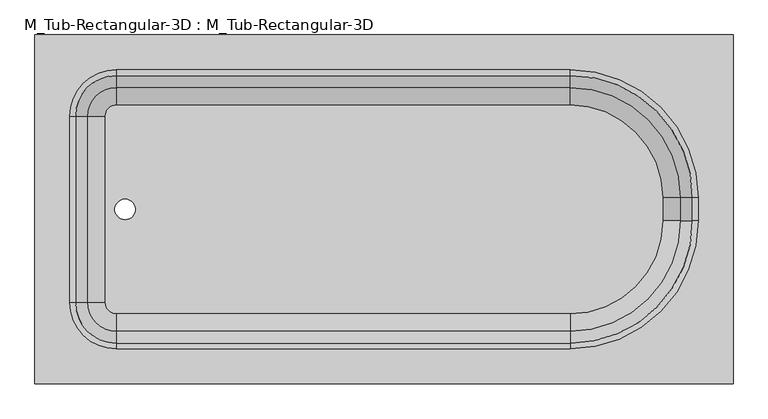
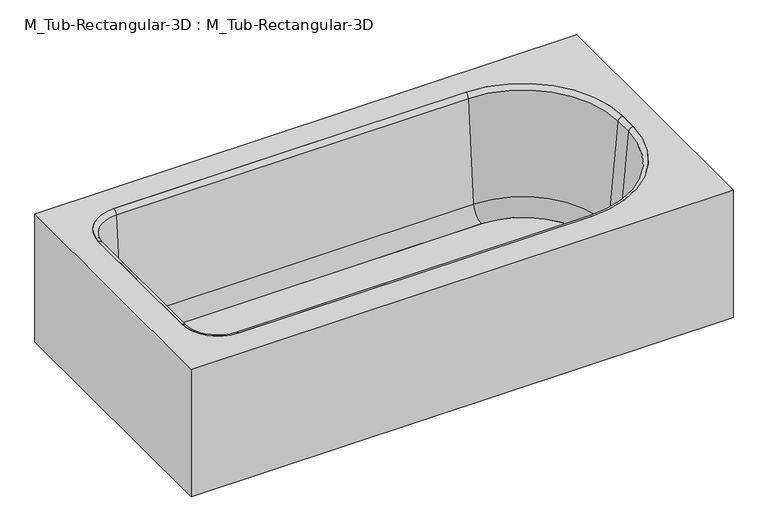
"""IFC4 building model written with IfcOpenShell, lengths in millimetres: flow terminal geometry, M_Tub-Rectangular-3D : M_Tub-Rectangular-3D."""

from ifc_helpers import new_model, si_unit, point, frame, frame_2d, origin, place, context, project, spatial, polyline, circle_curve, ellipse_curve, trimmed, segment, composite_curve, outline, extrude, source, transform, mapped, element, save
from ifc_brep_helpers import plane_surface, cylinder_surface, revolved_surface, advanced_brep


def m_tub_rectangular_3d_m_tub_rectangular_3d_5c80b43e(model_context):
    return source(origin(), model_context, "Body", "SolidModel", [
        advanced_brep(
        [(-995.7544608, 676.2, 69.6929392), (-932.8029687, 739.1514921, 69.6929392), (-932.8029687, 765.3220035, 368.8232535), (-1021.9249722, 676.2, 368.8232535), (-957.7994428, 676.2, 34.913573), (-932.8029687, 701.1964741, 34.913573), (-957.7994428, 676.2, 15.863573), (-932.8029687, 701.1964741, 15.863573), (-1034.4029687, 676.2, 15.863573), (-932.8029687, 777.8, 15.863573), (-1034.4029687, 676.2, 380.0), (-932.8029687, 777.8, 380.0), (-1021.9249722, 269.8, 368.8232535), (-995.7544608, 269.8, 69.6929392), (-957.7994428, 269.8, 34.913573), (-957.7994428, 269.8, 15.863573), (-1034.4029687, 269.8, 15.863573), (-1034.4029687, 269.8, 380.0), (-932.8029687, 206.8485079, 69.6929392), (-932.8029687, 180.6779965, 368.8232535), (-932.8029687, 244.8035259, 34.913573), (-932.8029687, 244.8035259, 15.863573), (-932.8029687, 168.2, 15.863573), (-932.8029687, 168.2, 380.0), (58.7970313, 180.6779965, 368.8232535), (58.7970313, 206.8485079, 69.6929392), (58.7970313, 244.8035259, 34.913573), (58.7970313, 244.8035259, 15.863573), (58.7970313, 168.2, 15.863573), (58.7970313, 168.2, 380.0), (299.5485234, 447.6, 69.6929392), (325.7190348, 447.6, 368.8232535), (261.5935054, 447.6, 34.913573), (261.5935054, 447.6, 15.863573), (338.1970313, 447.6, 15.863573), (338.1970313, 447.6, 380.0), (325.7190348, 498.4, 368.8232535), (299.5485234, 498.4, 69.6929392), (261.5935054, 498.4, 34.913573), (261.5935054, 498.4, 15.863573), (338.1970313, 498.4, 15.863573), (338.1970313, 498.4, 380.0), (58.7970313, 739.1514921, 69.6929392), (58.7970313, 765.3220035, 368.8232535), (58.7970313, 701.1964741, 34.913573), (58.7970313, 701.1964741, 15.863573), (58.7970313, 777.8, 15.863573), (58.7970313, 777.8, 380.0)],
        [
            (0, 1, circle_curve(frame((-932.8029687, 676.2, 69.6929392), z_axis=(0.0, 0.0, -1.0), x_axis=(0.0, 1.0, 0.0)), 62.9514921)),
            (1, 2),
            (2, 3, circle_curve(frame((-932.8029687, 676.2, 368.8232535), z_axis=(0.0, 0.0, 1.0), x_axis=(0.0, 1.0, 0.0)), 89.1220035)),
            (3, 0),
            (4, 5, circle_curve(frame((-932.8029687, 676.2, 34.913573), z_axis=(0.0, 0.0, -1.0), x_axis=(0.0, 1.0, 0.0)), 24.9964741)),
            (5, 1, circle_curve(frame((-932.8029687, 701.1964741, 73.013573), z_axis=(1.0, 0.0, 0.0), x_axis=(0.0, -1.0, 0.0)), 38.1)),
            (0, 4, circle_curve(frame((-957.7994428, 676.2, 73.013573), z_axis=(0.0, -1.0, 0.0), x_axis=(1.0, 0.0, 0.0)), 38.1)),
            (6, 7, circle_curve(frame((-932.8029687, 676.2, 15.863573), z_axis=(0.0, 0.0, -1.0), x_axis=(0.0, 1.0, 0.0)), 24.9964741)),
            (7, 5),
            (4, 6),
            (8, 9, circle_curve(frame((-932.8029687, 676.2, 15.863573), z_axis=(0.0, 0.0, -1.0), x_axis=(0.0, 1.0, 0.0)), 101.6)),
            (9, 7),
            (6, 8),
            (10, 11, circle_curve(frame((-932.8029687, 676.2, 380.0), z_axis=(0.0, 0.0, -1.0), x_axis=(0.0, 1.0, 0.0)), 101.6)),
            (11, 9),
            (8, 10),
            (2, 11, circle_curve(frame((-932.8029687, 777.8, 367.4462547), z_axis=(-1.0, 0.0, 0.0), x_axis=(0.0, -1.0, 0.0)), 12.5537453)),
            (10, 3, circle_curve(frame((-1034.4029687, 676.2, 367.4462547), z_axis=(0.0, 1.0, 0.0), x_axis=(1.0, 0.0, 0.0)), 12.5537453)),
            (3, 12),
            (12, 13),
            (13, 0),
            (13, 14, circle_curve(frame((-957.7994428, 269.8, 73.013573), z_axis=(0.0, -1.0, 0.0), x_axis=(1.0, 0.0, 0.0)), 38.1)),
            (14, 4),
            (14, 15),
            (15, 6),
            (15, 16),
            (16, 8),
            (16, 17),
            (17, 10),
            (17, 12, circle_curve(frame((-1034.4029687, 269.8, 367.4462547), z_axis=(0.0, 1.0, 0.0), x_axis=(1.0, 0.0, 0.0)), 12.5537453)),
            (18, 13, circle_curve(frame((-932.8029687, 269.8, 69.6929392), z_axis=(0.0, 0.0, -1.0), x_axis=(-1.0, 0.0, 0.0)), 62.9514921)),
            (12, 19, circle_curve(frame((-932.8029687, 269.8, 368.8232535), z_axis=(0.0, 0.0, 1.0), x_axis=(-1.0, 0.0, 0.0)), 89.1220035)),
            (19, 18),
            (20, 14, circle_curve(frame((-932.8029687, 269.8, 34.913573), z_axis=(0.0, 0.0, -1.0), x_axis=(-1.0, 0.0, 0.0)), 24.9964741)),
            (18, 20, circle_curve(frame((-932.8029687, 244.8035259, 73.013573), z_axis=(1.0, 0.0, 0.0), x_axis=(0.0, 1.0, 0.0)), 38.1)),
            (21, 15, circle_curve(frame((-932.8029687, 269.8, 15.863573), z_axis=(0.0, 0.0, -1.0), x_axis=(-1.0, 0.0, 0.0)), 24.9964741)),
            (20, 21),
            (22, 16, circle_curve(frame((-932.8029687, 269.8, 15.863573), z_axis=(0.0, 0.0, -1.0), x_axis=(-1.0, 0.0, 0.0)), 101.6)),
            (21, 22),
            (23, 17, circle_curve(frame((-932.8029687, 269.8, 380.0), z_axis=(0.0, 0.0, -1.0), x_axis=(-1.0, 0.0, 0.0)), 101.6)),
            (22, 23),
            (23, 19, circle_curve(frame((-932.8029687, 168.2, 367.4462547), z_axis=(-1.0, 0.0, 0.0), x_axis=(0.0, 1.0, 0.0)), 12.5537453)),
            (19, 24),
            (24, 25),
            (25, 18),
            (25, 26, circle_curve(frame((58.7970313, 244.8035259, 73.013573), z_axis=(1.0, 0.0, 0.0), x_axis=(0.0, 1.0, 0.0)), 38.1)),
            (26, 20),
            (26, 27),
            (27, 21),
            (27, 28),
            (28, 22),
            (28, 29),
            (29, 23),
            (29, 24, circle_curve(frame((58.7970313, 168.2, 367.4462547), z_axis=(-1.0, 0.0, 0.0), x_axis=(0.0, 1.0, 0.0)), 12.5537453)),
            (30, 25, circle_curve(frame((58.7970313, 447.6, 69.6929392), z_axis=(0.0, 0.0, -1.0), x_axis=(0.0, -1.0, 0.0)), 240.7514921)),
            (24, 31, circle_curve(frame((58.7970313, 447.6, 368.8232535), z_axis=(0.0, 0.0, 1.0), x_axis=(0.0, -1.0, 0.0)), 266.9220035)),
            (31, 30),
            (32, 26, circle_curve(frame((58.7970313, 447.6, 34.913573), z_axis=(0.0, 0.0, -1.0), x_axis=(0.0, -1.0, 0.0)), 202.7964741)),
            (30, 32, circle_curve(frame((261.5935054, 447.6, 73.013573), z_axis=(0.0, 1.0, 0.0), x_axis=(-1.0, 0.0, 0.0)), 38.1)),
            (33, 27, circle_curve(frame((58.7970313, 447.6, 15.863573), z_axis=(0.0, 0.0, -1.0), x_axis=(0.0, -1.0, 0.0)), 202.7964741)),
            (32, 33),
            (34, 28, circle_curve(frame((58.7970313, 447.6, 15.863573), z_axis=(0.0, 0.0, -1.0), x_axis=(0.0, -1.0, 0.0)), 279.4)),
            (33, 34),
            (35, 29, circle_curve(frame((58.7970313, 447.6, 380.0), z_axis=(0.0, 0.0, -1.0), x_axis=(0.0, -1.0, 0.0)), 279.4)),
            (34, 35),
            (35, 31, circle_curve(frame((338.1970313, 447.6, 367.4462547), z_axis=(0.0, -1.0, 0.0), x_axis=(-1.0, 0.0, 0.0)), 12.5537453)),
            (31, 36),
            (36, 37),
            (37, 30),
            (37, 38, circle_curve(frame((261.5935054, 498.4, 73.013573), z_axis=(0.0, 1.0, 0.0), x_axis=(-1.0, 0.0, 0.0)), 38.1)),
            (38, 32),
            (38, 39),
            (39, 33),
            (39, 40),
            (40, 34),
            (40, 41),
            (41, 35),
            (41, 36, circle_curve(frame((338.1970313, 498.4, 367.4462547), z_axis=(0.0, -1.0, 0.0), x_axis=(-1.0, 0.0, 0.0)), 12.5537453)),
            (42, 37, circle_curve(frame((58.7970313, 498.4, 69.6929392), z_axis=(0.0, 0.0, -1.0), x_axis=(1.0, 0.0, 0.0)), 240.7514921)),
            (36, 43, circle_curve(frame((58.7970313, 498.4, 368.8232535), z_axis=(0.0, 0.0, 1.0), x_axis=(1.0, 0.0, 0.0)), 266.9220035)),
            (43, 42),
            (44, 38, circle_curve(frame((58.7970313, 498.4, 34.913573), z_axis=(0.0, 0.0, -1.0), x_axis=(1.0, 0.0, 0.0)), 202.7964741)),
            (42, 44, circle_curve(frame((58.7970313, 701.1964741, 73.013573), z_axis=(-1.0, 0.0, 0.0), x_axis=(0.0, -1.0, 0.0)), 38.1)),
            (45, 39, circle_curve(frame((58.7970313, 498.4, 15.863573), z_axis=(0.0, 0.0, -1.0), x_axis=(1.0, 0.0, 0.0)), 202.7964741)),
            (44, 45),
            (46, 40, circle_curve(frame((58.7970313, 498.4, 15.863573), z_axis=(0.0, 0.0, -1.0), x_axis=(1.0, 0.0, 0.0)), 279.4)),
            (45, 46),
            (47, 41, circle_curve(frame((58.7970313, 498.4, 380.0), z_axis=(0.0, 0.0, -1.0), x_axis=(1.0, 0.0, 0.0)), 279.4)),
            (46, 47),
            (47, 43, circle_curve(frame((58.7970313, 777.8, 367.4462547), z_axis=(1.0, 0.0, 0.0), x_axis=(0.0, -1.0, 0.0)), 12.5537453)),
            (43, 2),
            (1, 42),
            (5, 44),
            (7, 45),
            (9, 46),
            (11, 47),
        ],
        [
            revolved_surface(polyline([(-932.8029687, 765.3220035, 368.8232535), (-932.8029687, 739.1514921, 69.6929392)]), (-932.8029687, 676.2, 380.0), (0.0, 0.0, 1.0)),
            revolved_surface(trimmed(ellipse_curve(frame((-932.8029687, 701.1964741, 73.013573), z_axis=(-1.0, 0.0, 0.0), x_axis=(0.0, -1.0, 0.0)), 38.1, 38.1), [point((-932.8029687, 739.1514921, 69.6929392))], [point((-932.8029687, 701.1964741, 34.913573))], True, "CARTESIAN"), (-932.8029687, 676.2, 380.0), (0.0, 0.0, 1.0)),
            revolved_surface(polyline([(-932.8029687, 701.1964741, 34.913572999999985), (-932.8029687, 701.1964741, 15.863572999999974)]), (-932.8029687, 676.2, 380.0), (0.0, 0.0, 1.0)),
            plane_surface(frame((-932.8029687, 676.2, 15.863573), z_axis=(0.0, 0.0, -1.0), x_axis=(0.0, 1.0, 0.0))),
            cylinder_surface(frame((-932.8029687, 676.2, 380.0), z_axis=(0.0, 0.0, 1.0), x_axis=(0.0, 1.0, 0.0)), 101.6),
            revolved_surface(trimmed(ellipse_curve(frame((-932.8029687, 777.8, 367.4462547), z_axis=(1.0, 0.0, 0.0), x_axis=(0.0, -1.0, 0.0)), 12.5537453, 12.5537453), [point((-932.8029687, 777.8, 380.0))], [point((-932.8029687, 765.3220035, 368.8232535))], True, "CARTESIAN"), (-932.8029687, 676.2, 380.0), (0.0, 0.0, 1.0)),
            plane_surface(frame((-1021.9249722, 676.2, 368.8232535), z_axis=(0.9961946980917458, 0.0, 0.08715574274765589), x_axis=(0.0, -1.0, 0.0))),
            revolved_surface(polyline([(-919.6994427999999, 269.8, 73.013573), (-919.6994427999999, 676.2, 73.013573)]), (-957.7994428, 676.2, 73.013573), (0.0, -1.0, 0.0)),
            plane_surface(frame((-957.7994428, 676.2, 34.913573), z_axis=(1.0, 0.0, 0.0), x_axis=(0.0, -1.0, 0.0))),
            plane_surface(frame((-957.7994428, 676.2, 15.863573), z_axis=(0.0, 0.0, -1.0), x_axis=(0.0, -1.0, 0.0))),
            plane_surface(frame((-1034.4029687, 676.2, 15.863573), z_axis=(-1.0, 0.0, 0.0), x_axis=(0.0, -1.0, 0.0))),
            cylinder_surface(frame((-1034.4029687, 676.2, 367.4462547), z_axis=(0.0, 1.0, 0.0), x_axis=(1.0, 0.0, 0.0)), 12.5537453),
            revolved_surface(polyline([(-1021.9249722, 269.8, 368.8232535), (-995.7544608, 269.8, 69.6929392)]), (-932.8029687, 269.8, 380.0), (0.0, 0.0, 1.0)),
            revolved_surface(trimmed(ellipse_curve(frame((-957.7994428, 269.8, 73.013573), z_axis=(0.0, -1.0, 0.0), x_axis=(1.0, 0.0, 0.0)), 38.1, 38.1), [point((-995.7544608, 269.8, 69.6929392))], [point((-957.7994428, 269.8, 34.913573))], True, "CARTESIAN"), (-932.8029687, 269.8, 380.0), (0.0, 0.0, 1.0)),
            revolved_surface(polyline([(-957.7994428, 269.8, 34.913572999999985), (-957.7994428, 269.8, 15.863572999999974)]), (-932.8029687, 269.8, 380.0), (0.0, 0.0, 1.0)),
            plane_surface(frame((-932.8029687, 269.8, 15.863573), z_axis=(0.0, 0.0, -1.0), x_axis=(-1.0, 0.0, 0.0))),
            cylinder_surface(frame((-932.8029687, 269.8, 380.0), z_axis=(0.0, 0.0, 1.0), x_axis=(-1.0, 0.0, 0.0)), 101.6),
            revolved_surface(trimmed(ellipse_curve(frame((-1034.4029687, 269.8, 367.4462547), z_axis=(0.0, 1.0, 0.0), x_axis=(1.0, 0.0, 0.0)), 12.5537453, 12.5537453), [point((-1034.4029687, 269.8, 380.0))], [point((-1021.9249722, 269.8, 368.8232535))], True, "CARTESIAN"), (-932.8029687, 269.8, 380.0), (0.0, 0.0, 1.0)),
            plane_surface(frame((-932.8029687, 180.6779965, 368.8232535), z_axis=(0.0, 0.9961946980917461, 0.08715574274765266), x_axis=(1.0, 0.0, 0.0))),
            revolved_surface(polyline([(58.79703129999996, 282.90352590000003, 73.013573), (-932.8029687, 282.90352590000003, 73.013573)]), (-932.8029687, 244.8035259, 73.013573), (1.0, 0.0, 0.0)),
            plane_surface(frame((-932.8029687, 244.8035259, 34.913573), z_axis=(0.0, 1.0, 0.0), x_axis=(1.0, 0.0, 0.0))),
            plane_surface(frame((-932.8029687, 244.8035259, 15.863573), z_axis=(0.0, 0.0, -1.0), x_axis=(1.0, 0.0, 0.0))),
            plane_surface(frame((-932.8029687, 168.2, 15.863573), z_axis=(0.0, -1.0, 0.0), x_axis=(1.0, 0.0, 0.0))),
            cylinder_surface(frame((-932.8029687, 168.2, 367.4462547), z_axis=(-1.0, 0.0, 0.0), x_axis=(0.0, 1.0, 0.0)), 12.5537453),
            revolved_surface(polyline([(58.7970313, 180.6779965, 368.8232535), (58.7970313, 206.8485079, 69.6929392)]), (58.7970313, 447.6, 380.0), (0.0, 0.0, 1.0)),
            revolved_surface(trimmed(ellipse_curve(frame((58.7970313, 244.8035259, 73.013573), z_axis=(1.0, 0.0, 0.0), x_axis=(0.0, 1.0, 0.0)), 38.1, 38.1), [point((58.7970313, 206.8485079, 69.6929392))], [point((58.7970313, 244.8035259, 34.913573))], True, "CARTESIAN"), (58.7970313, 447.6, 380.0), (0.0, 0.0, 1.0)),
            revolved_surface(polyline([(58.7970313, 244.8035259, 34.913572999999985), (58.7970313, 244.8035259, 15.863572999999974)]), (58.7970313, 447.6, 380.0), (0.0, 0.0, 1.0)),
            plane_surface(frame((58.7970313, 447.6, 15.863573), z_axis=(0.0, 0.0, -1.0), x_axis=(0.0, -1.0, 0.0))),
            cylinder_surface(frame((58.7970313, 447.6, 380.0), z_axis=(0.0, 0.0, 1.0), x_axis=(0.0, -1.0, 0.0)), 279.4),
            revolved_surface(trimmed(ellipse_curve(frame((58.7970313, 168.2, 367.4462547), z_axis=(-1.0, 0.0, 0.0), x_axis=(0.0, 1.0, 0.0)), 12.5537453, 12.5537453), [point((58.7970313, 168.2, 380.0))], [point((58.7970313, 180.6779965, 368.8232535))], True, "CARTESIAN"), (58.7970313, 447.6, 380.0), (0.0, 0.0, 1.0)),
            plane_surface(frame((325.7190348, 447.6, 368.8232535), z_axis=(-0.9961946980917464, 0.0, 0.08715574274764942), x_axis=(0.0, 1.0, 0.0))),
            revolved_surface(polyline([(223.49350540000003, 498.4, 73.013573), (223.49350540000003, 447.6, 73.013573)]), (261.5935054, 447.6, 73.013573), (0.0, 1.0, 0.0)),
            plane_surface(frame((261.5935054, 447.6, 34.913573), z_axis=(-1.0, 0.0, 0.0), x_axis=(0.0, 1.0, 0.0))),
            plane_surface(frame((261.5935054, 447.6, 15.863573), z_axis=(0.0, 0.0, -1.0), x_axis=(0.0, 1.0, 0.0))),
            plane_surface(frame((338.1970313, 447.6, 15.863573), z_axis=(1.0, 0.0, 0.0), x_axis=(0.0, 1.0, 0.0))),
            cylinder_surface(frame((338.1970313, 447.6, 367.4462547), z_axis=(0.0, -1.0, 0.0), x_axis=(-1.0, 0.0, 0.0)), 12.5537453),
            revolved_surface(polyline([(325.7190348, 498.4, 368.8232535), (299.5485234, 498.4, 69.6929392)]), (58.7970313, 498.4, 380.0), (0.0, 0.0, 1.0)),
            revolved_surface(trimmed(ellipse_curve(frame((261.5935054, 498.4, 73.013573), z_axis=(0.0, 1.0, 0.0), x_axis=(-1.0, 0.0, 0.0)), 38.1, 38.1), [point((299.5485234, 498.4, 69.6929392))], [point((261.5935054, 498.4, 34.913573))], True, "CARTESIAN"), (58.7970313, 498.4, 380.0), (0.0, 0.0, 1.0)),
            revolved_surface(polyline([(261.5935054, 498.4, 34.913572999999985), (261.5935054, 498.4, 15.863572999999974)]), (58.7970313, 498.4, 380.0), (0.0, 0.0, 1.0)),
            plane_surface(frame((58.7970313, 498.4, 15.863573), z_axis=(0.0, 0.0, -1.0), x_axis=(1.0, 0.0, 0.0))),
            cylinder_surface(frame((58.7970313, 498.4, 380.0), z_axis=(0.0, 0.0, 1.0), x_axis=(1.0, 0.0, 0.0)), 279.4),
            revolved_surface(trimmed(ellipse_curve(frame((338.1970313, 498.4, 367.4462547), z_axis=(0.0, -1.0, 0.0), x_axis=(-1.0, 0.0, 0.0)), 12.5537453, 12.5537453), [point((338.1970313, 498.4, 380.0))], [point((325.7190348, 498.4, 368.8232535))], True, "CARTESIAN"), (58.7970313, 498.4, 380.0), (0.0, 0.0, 1.0)),
            plane_surface(frame((58.7970313, 765.3220035, 368.8232535), z_axis=(0.0, -0.9961946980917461, 0.08715574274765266), x_axis=(-1.0, 0.0, 0.0))),
            revolved_surface(polyline([(-932.8029687, 663.0964741, 73.013573), (58.7970313, 663.0964741, 73.013573)]), (58.7970313, 701.1964741, 73.013573), (-1.0, 0.0, 0.0)),
            plane_surface(frame((58.7970313, 701.1964741, 34.913573), z_axis=(0.0, -1.0, 0.0), x_axis=(-1.0, 0.0, 0.0))),
            plane_surface(frame((58.7970313, 701.1964741, 15.863573), z_axis=(0.0, 0.0, -1.0), x_axis=(-1.0, 0.0, 0.0))),
            plane_surface(frame((58.7970313, 777.8, 15.863573), z_axis=(0.0, 1.0, 0.0), x_axis=(-1.0, 0.0, 0.0))),
            cylinder_surface(frame((58.7970313, 777.8, 367.4462547), z_axis=(1.0, 0.0, 0.0), x_axis=(0.0, -1.0, 0.0)), 12.5537453),
        ],
        [
            (0, [[1, 2, 3, 4]]),
            (1, [[5, 6, -1, 7]]),
            (2, [[8, 9, -5, 10]]),
            (3, [[11, 12, -8, 13]]),
            (4, [[14, 15, -11, 16]]),
            (5, [[-3, 17, -14, 18]]),
            (6, [[-4, 19, 20, 21]]),
            (7, [[-7, -21, 22, 23]]),
            (8, [[-10, -23, 24, 25]]),
            (9, [[-13, -25, 26, 27]]),
            (10, [[-16, -27, 28, 29]]),
            (11, [[-18, -29, 30, -19]]),
            (12, [[31, -20, 32, 33]]),
            (13, [[34, -22, -31, 35]]),
            (14, [[36, -24, -34, 37]]),
            (15, [[38, -26, -36, 39]]),
            (16, [[40, -28, -38, 41]]),
            (17, [[-32, -30, -40, 42]]),
            (18, [[-33, 43, 44, 45]]),
            (19, [[-35, -45, 46, 47]]),
            (20, [[-37, -47, 48, 49]]),
            (21, [[-39, -49, 50, 51]]),
            (22, [[-41, -51, 52, 53]]),
            (23, [[-42, -53, 54, -43]]),
            (24, [[55, -44, 56, 57]]),
            (25, [[58, -46, -55, 59]]),
            (26, [[60, -48, -58, 61]]),
            (27, [[62, -50, -60, 63]]),
            (28, [[64, -52, -62, 65]]),
            (29, [[-56, -54, -64, 66]]),
            (30, [[-57, 67, 68, 69]]),
            (31, [[-59, -69, 70, 71]]),
            (32, [[-61, -71, 72, 73]]),
            (33, [[-63, -73, 74, 75]]),
            (34, [[-65, -75, 76, 77]]),
            (35, [[-66, -77, 78, -67]]),
            (36, [[79, -68, 80, 81]]),
            (37, [[82, -70, -79, 83]]),
            (38, [[84, -72, -82, 85]]),
            (39, [[86, -74, -84, 87]]),
            (40, [[88, -76, -86, 89]]),
            (41, [[-80, -78, -88, 90]]),
            (42, [[-81, 91, -2, 92]]),
            (43, [[-83, -92, -6, 93]]),
            (44, [[-85, -93, -9, 94]]),
            (45, [[-87, -94, -12, 95]]),
            (46, [[-89, -95, -15, 96]]),
            (47, [[-90, -96, -17, -91]]),
        ],
    ),
        extrude(outline(composite_curve([segment(trimmed(circle_curve(frame_2d((58.7970313, 498.4)), 202.7964741), [point((58.7970313, 701.1964741))], [point((261.5935054, 498.4))], False, "CARTESIAN"), True, "CONTINUOUS"), segment(polyline([(261.5935054, 498.4), (261.5935054, 447.6)]), True, "CONTINUOUS"), segment(trimmed(circle_curve(frame_2d((58.7970313, 447.6)), 202.7964741), [point((261.5935054, 447.6))], [point((58.7970313, 244.8035259))], False, "CARTESIAN"), True, "CONTINUOUS"), segment(polyline([(58.7970313, 244.8035259), (-932.8029687, 244.8035259)]), True, "CONTINUOUS"), segment(trimmed(circle_curve(frame_2d((-932.8029687, 269.8)), 24.9964741), [point((-932.8029687, 244.8035259))], [point((-957.7994428, 269.8))], False, "CARTESIAN"), True, "CONTINUOUS"), segment(polyline([(-957.7994428, 269.8), (-957.7994428, 676.2)]), True, "CONTINUOUS"), segment(trimmed(circle_curve(frame_2d((-932.8029687, 676.2)), 24.9964741), [point((-957.7994428, 676.2))], [point((-932.8029687, 701.1964741))], False, "CARTESIAN"), True, "CONTINUOUS"), segment(polyline([(-932.8029687, 701.1964741), (58.7970313, 701.1964741)]), True, "CONTINUOUS")], self_intersect=False), holes=[composite_curve([segment(trimmed(circle_curve(frame_2d((-913.5971625, 473.0)), 22.225), [point((-913.5971625, 495.225))], [point((-913.5971625, 450.775))], True, "CARTESIAN"), True, "CONTINUOUS"), segment(trimmed(circle_curve(frame_2d((-913.5971625, 473.0)), 22.225), [point((-913.5971625, 450.775))], [point((-913.5971625, 495.225))], True, "CARTESIAN"), True, "CONTINUOUS")], self_intersect=False)]), frame((0.0, 0.0, 15.863573), z_axis=(0.0, 0.0, 1.0), x_axis=(1.0, 0.0, 0.0)), (0.0, 0.0, 1.0), 19.05),
        advanced_brep(
        [(414.3970313, 854.0, 380.0), (-1110.6029687, 854.0, 380.0), (-1110.6029687, 92.0, 380.0), (414.3970313, 92.0, 380.0), (-932.8029687, 777.8, 380.0), (58.7970313, 777.8, 380.0), (338.1970313, 498.4, 380.0), (338.1970313, 447.6, 380.0), (58.7970313, 168.2, 380.0), (-932.8029687, 168.2, 380.0), (-1034.4029687, 269.8, 380.0), (-1034.4029687, 676.2, 380.0), (395.3470313, 834.95, 360.95), (395.3470313, 111.05, 360.95), (-1091.5529687, 111.05, 360.95), (-1091.5529687, 834.95, 360.95), (-932.8029687, 777.8, 360.95), (-1034.4029687, 676.2, 360.95), (-1034.4029687, 269.8, 360.95), (-932.8029687, 168.2, 360.95), (58.7970313, 168.2, 360.95), (338.1970313, 447.6, 360.95), (338.1970313, 498.4, 360.95), (58.7970313, 777.8, 360.95), (414.3970313, 854.0, 0.0), (-1110.6029687, 854.0, 0.0), (-1110.6029687, 92.0, 0.0), (414.3970313, 92.0, 0.0), (395.3470313, 834.95, 0.0), (-1091.5529687, 834.95, 0.0), (-1091.5529687, 111.05, 0.0), (395.3470313, 111.05, 0.0)],
        [
            (0, 1),
            (1, 2),
            (2, 3),
            (3, 0),
            (4, 5),
            (5, 6, circle_curve(frame((58.7970313, 498.4, 380.0), z_axis=(0.0, 0.0, -1.0), x_axis=(0.0, 1.0, 0.0)), 279.4)),
            (6, 7),
            (7, 8, circle_curve(frame((58.7970313, 447.6, 380.0), z_axis=(0.0, 0.0, -1.0), x_axis=(0.0, 1.0, 0.0)), 279.4)),
            (8, 9),
            (9, 10, circle_curve(frame((-932.8029687, 269.8, 380.0), z_axis=(0.0, 0.0, -1.0), x_axis=(0.0, 1.0, 0.0)), 101.6)),
            (10, 11),
            (11, 4, circle_curve(frame((-932.8029687, 676.2, 380.0), z_axis=(0.0, 0.0, -1.0), x_axis=(0.0, 1.0, 0.0)), 101.6)),
            (12, 13),
            (13, 14),
            (14, 15),
            (15, 12),
            (16, 17, circle_curve(frame((-932.8029687, 676.2, 360.95), z_axis=(0.0, 0.0, 1.0), x_axis=(0.0, 1.0, 0.0)), 101.6)),
            (17, 18),
            (18, 19, circle_curve(frame((-932.8029687, 269.8, 360.95), z_axis=(0.0, 0.0, 1.0), x_axis=(0.0, 1.0, 0.0)), 101.6)),
            (19, 20),
            (20, 21, circle_curve(frame((58.7970313, 447.6, 360.95), z_axis=(0.0, 0.0, 1.0), x_axis=(0.0, 1.0, 0.0)), 279.4)),
            (21, 22),
            (22, 23, circle_curve(frame((58.7970313, 498.4, 360.95), z_axis=(0.0, 0.0, 1.0), x_axis=(0.0, 1.0, 0.0)), 279.4)),
            (23, 16),
            (0, 24),
            (24, 25),
            (25, 1),
            (25, 26),
            (26, 2),
            (26, 27),
            (27, 3),
            (27, 24),
            (4, 16),
            (23, 5),
            (22, 6),
            (21, 7),
            (20, 8),
            (19, 9),
            (18, 10),
            (17, 11),
            (28, 29),
            (29, 30),
            (30, 31),
            (31, 28),
            (31, 13),
            (12, 28),
            (30, 14),
            (29, 15),
        ],
        [
            plane_surface(frame((-1110.6029687, 854.0, 380.0), z_axis=(0.0, 0.0, 1.0), x_axis=(-1.0, 0.0, 0.0))),
            plane_surface(frame((-1110.6029687, 854.0, 360.95), z_axis=(0.0, 0.0, -1.0), x_axis=(1.0, 0.0, 0.0))),
            plane_surface(frame((414.3970313, 854.0, 380.0), z_axis=(0.0, 1.0, 0.0), x_axis=(0.0, 0.0, -1.0))),
            plane_surface(frame((-1110.6029687, 854.0, 380.0), z_axis=(-1.0, 0.0, 0.0), x_axis=(0.0, 0.0, -1.0))),
            plane_surface(frame((-1110.6029687, 92.0, 380.0), z_axis=(0.0, -1.0, 0.0), x_axis=(0.0, 0.0, -1.0))),
            plane_surface(frame((414.3970313, 92.0, 380.0), z_axis=(1.0, 0.0, 0.0), x_axis=(0.0, 0.0, -1.0))),
            plane_surface(frame((-932.8029687, 777.8, 380.0), z_axis=(0.0, -1.0, 0.0), x_axis=(0.0, 0.0, -1.0))),
            revolved_surface(polyline([(58.7970313, 777.8, 360.95), (58.7970313, 777.8, 380.0)]), (58.7970313, 498.4, 380.0), (0.0, 0.0, -1.0)),
            plane_surface(frame((338.1970313, 498.4, 380.0), z_axis=(-1.0, 0.0, 0.0), x_axis=(0.0, 0.0, -1.0))),
            revolved_surface(polyline([(58.7970313, 727.0, 360.95), (58.7970313, 727.0, 380.0)]), (58.7970313, 447.6, 380.0), (0.0, 0.0, -1.0)),
            plane_surface(frame((58.7970313, 168.2, 380.0), z_axis=(0.0, 1.0, 0.0), x_axis=(0.0, 0.0, -1.0))),
            revolved_surface(polyline([(-932.8029687, 371.4, 360.95), (-932.8029687, 371.4, 380.0)]), (-932.8029687, 269.8, 380.0), (0.0, 0.0, -1.0)),
            plane_surface(frame((-1034.4029687, 269.8, 380.0), z_axis=(1.0, 0.0, 0.0), x_axis=(0.0, 0.0, -1.0))),
            revolved_surface(polyline([(-932.8029687, 777.8000000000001, 360.95), (-932.8029687, 777.8000000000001, 380.0)]), (-932.8029687, 676.2, 380.0), (0.0, 0.0, -1.0)),
            plane_surface(frame((-1110.6029687, 854.0, 0.0), z_axis=(0.0, 0.0, -1.0), x_axis=(1.0, 0.0, 0.0))),
            plane_surface(frame((395.3470313, 834.95, 360.95), z_axis=(-1.0, 0.0, 0.0), x_axis=(0.0, 0.0, -1.0))),
            plane_surface(frame((395.3470313, 111.05, 360.95), z_axis=(0.0, 1.0, 0.0), x_axis=(0.0, 0.0, -1.0))),
            plane_surface(frame((-1091.5529687, 111.05, 360.95), z_axis=(1.0, 0.0, 0.0), x_axis=(0.0, 0.0, -1.0))),
            plane_surface(frame((-1091.5529687, 834.95, 360.95), z_axis=(0.0, -1.0, 0.0), x_axis=(0.0, 0.0, -1.0))),
        ],
        [
            (0, [[1, 2, 3, 4], [5, 6, 7, 8, 9, 10, 11, 12]]),
            (1, [[13, 14, 15, 16], [17, 18, 19, 20, 21, 22, 23, 24]]),
            (2, [[-1, 25, 26, 27]]),
            (3, [[-2, -27, 28, 29]]),
            (4, [[-3, -29, 30, 31]]),
            (5, [[-25, -4, -31, 32]]),
            (6, [[-5, 33, -24, 34]]),
            (7, [[-6, -34, -23, 35]]),
            (8, [[-7, -35, -22, 36]]),
            (9, [[-8, -36, -21, 37]]),
            (10, [[-9, -37, -20, 38]]),
            (11, [[-10, -38, -19, 39]]),
            (12, [[-11, -39, -18, 40]]),
            (13, [[-12, -40, -17, -33]]),
            (14, [[-32, -30, -28, -26], [41, 42, 43, 44]]),
            (15, [[-44, 45, -13, 46]]),
            (16, [[-43, 47, -14, -45]]),
            (17, [[-42, 48, -15, -47]]),
            (18, [[-41, -46, -16, -48]]),
        ],
    ),
    ])


if __name__ == "__main__":
    model = new_model("IFC4")
    model_context = context("Model", 3, world=origin())
    ifc_project = project(units=[si_unit("LENGTHUNIT", "METRE", prefix="MILLI")], contexts=[model_context])
    site = spatial("IfcSite", under=ifc_project)
    building = spatial("IfcBuilding", under=site)
    placement = place(None, origin())
    m_tub_rectangular_3d_m_tub_rectangular_3d_shape = m_tub_rectangular_3d_m_tub_rectangular_3d_5c80b43e(model_context)
    element("IfcFlowTerminal", 1, ObjectType="M_Tub-Rectangular-3D : M_Tub-Rectangular-3D", at=placement, inside=building, context=model_context, shape_type="MappedRepresentation", body=[
        mapped(m_tub_rectangular_3d_m_tub_rectangular_3d_shape, transform((0.0, 0.0, 0.0), x_axis=(1.0, 0.0, 0.0), y_axis=(0.0, 1.0, 0.0), z_axis=(0.0, 0.0, 1.0))),
    ])
    save(model, "model.ifc")
